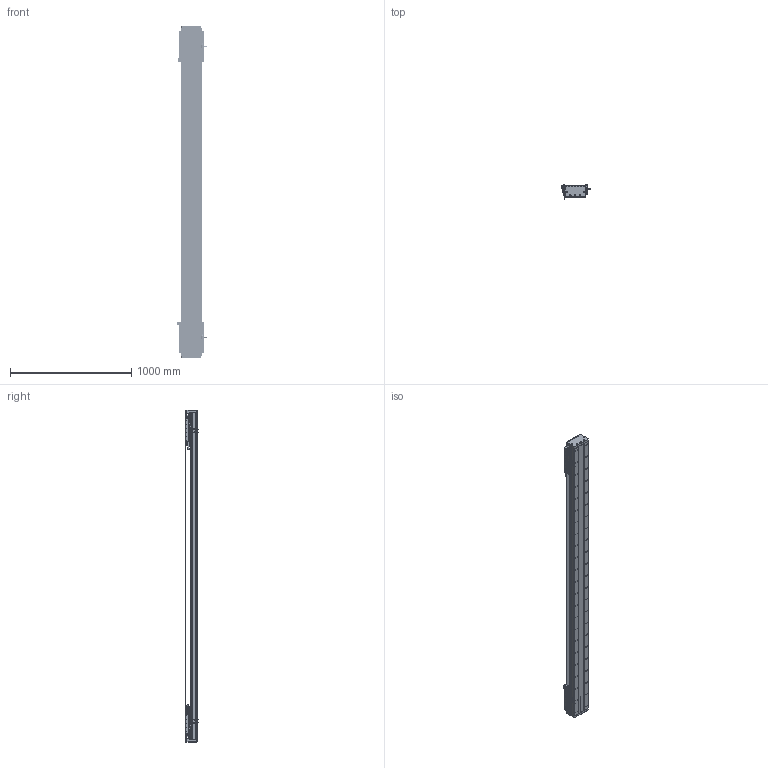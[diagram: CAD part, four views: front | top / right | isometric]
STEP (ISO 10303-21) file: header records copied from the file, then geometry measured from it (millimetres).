
FILE_DESCRIPTION (( 'STEP AP203' ), '1' );
FILE_NAME ('DA-C165-2-C3-T2120-C010-0.2 直线电机.STEP', '2023-06-13T09:19:15', ( '微软用户' ), ( '微软中国' ), 'SwSTEP 2.0', 'SolidWorks 2019', '' );
FILE_SCHEMA (( 'CONFIG_CONTROL_DESIGN' ));
Length unit declared in the file: millimetre
Products named in the file (22): IU-CU165-L 菁釱絳寢; 复件 DA95-HXJ-00 缓冲橡胶^DA-C165-C3-T-C010-0.2-N 直线电机; 复件 DA165-GD-DG-H-00 端盖^复件 CU165钢带组件_DA-C165-C3-T-C010-0.2-N 直线电机; 葩璃 CKM03-W075-C1C2-TP-3.0^DA-C165-C3-T-C010-0.2-N 眻盄萇儂; 葩璃 PM-Y45^DA-C165-C3-T-C010-0.2-N 眻盄萇儂; 复件 CU165 底座^IU-CU165-L 底座导轨_L2700; 复件 DA126-GYP-ZJ-00 中间光电感应片^DA-C165-C3-T-C010-0.2-N 直线电机; 复件 六角薄螺母 M3^DA-C165-C3-T-C010-0.2-N 直线电机_GB_FASTENER_NUT_STNAB M3-C; 葩璃 CKM01-W075-TRL^DA-C165-C3-T-C010-0.2-N 眻盄萇儂; 葩璃 PM-T45^DA-C165-C3-T-C010-0.2-N 眻盄萇儂; 复件 66338-1000-006-00 光电感应块^DA-C165-C3-T-C010-0.2-N 直线电机; 复件 DMA-010-0.2 读数头^DA-C165-C3-T-C010-0.2-N 直线电机; 复件 DKW-HXJ-JY-00 缓冲橡胶^DA-C165-C3-T-C010-0.2-N 直线电机; 复件 DA165-GYP-00 光电感应片^DA-C165-C3-T-C010-0.2-N 直线电机; DA-C165-2-C3-T2120-C010-0.2 眻盄萇儂; 复件 DA165-GDYK-00 钢带压块^复件 CU165钢带组件_DA-C165-C3-T-C010-0.2-N 直线电机; 复件 DA165-GD-1860-002-00 钢带盖板^复件 CU165钢带组件_DA-C165-C3-T-C010-0.2-N 直线电机; 复件 DA165-GDLK-00 钢带拉块^复件 CU165钢带组件_DA-C165-C3-T-C010-0.2-N 直线电机; 复件 CU165钢带组件^DA-C165-C3-T-C010-0.2-N 直线电机; 复件 XD-U-02L 磁栅尺^DA-C165-C3-T-C010-0.2-N 直线电机_T; 珨极趙賑雄怢啣C3-wf; 葩璃 DA95-GT-T-00^IU-CU165-L 菁釱絳寢_T
Assembly tree (45 placements, depth 3):
  DA-C165-2-C3-T2120-C010-0.2 眻盄萇儂
    IU-CU165-L 菁釱絳寢
      复件 CU165 底座^IU-CU165-L 底座导轨_L2700
      葩璃 DA95-GT-T-00^IU-CU165-L 菁釱絳寢_T  x4
    复件 XD-U-02L 磁栅尺^DA-C165-C3-T-C010-0.2-N 直线电机_T
    葩璃 PM-T45^DA-C165-C3-T-C010-0.2-N 眻盄萇儂  x4
    葩璃 CKM01-W075-TRL^DA-C165-C3-T-C010-0.2-N 眻盄萇儂
    复件 CU165钢带组件^DA-C165-C3-T-C010-0.2-N 直线电机
      复件 DA165-GD-DG-H-00 端盖^复件 CU165钢带组件_DA-C165-C3-T-C010-0.2-N 直线电机  x2
      复件 DA165-GDYK-00 钢带压块^复件 CU165钢带组件_DA-C165-C3-T-C010-0.2-N 直线电机  x2
      复件 DA165-GD-1860-002-00 钢带盖板^复件 CU165钢带组件_DA-C165-C3-T-C010-0.2-N 直线电机
      复件 DA165-GDLK-00 钢带拉块^复件 CU165钢带组件_DA-C165-C3-T-C010-0.2-N 直线电机  x2
    复件 DA95-HXJ-00 缓冲橡胶^DA-C165-C3-T-C010-0.2-N 直线电机  x4
    复件 DMA-010-0.2 读数头^DA-C165-C3-T-C010-0.2-N 直线电机  x2
    复件 DA165-GYP-00 光电感应片^DA-C165-C3-T-C010-0.2-N 直线电机  x2
    复件 66338-1000-006-00 光电感应块^DA-C165-C3-T-C010-0.2-N 直线电机
    葩璃 PM-Y45^DA-C165-C3-T-C010-0.2-N 眻盄萇儂
    复件 DA126-GYP-ZJ-00 中间光电感应片^DA-C165-C3-T-C010-0.2-N 直线电机
    葩璃 CKM03-W075-C1C2-TP-3.0^DA-C165-C3-T-C010-0.2-N 眻盄萇儂  x2
    复件 DKW-HXJ-JY-00 缓冲橡胶^DA-C165-C3-T-C010-0.2-N 直线电机  x2
    复件 六角薄螺母 M3^DA-C165-C3-T-C010-0.2-N 直线电机_GB_FASTENER_NUT_STNAB M3-C  x8
    珨极趙賑雄怢啣C3-wf  x2
Bounding box: 247.2 x 111.45 x 2740 mm (x, y, z)
Volume: 17802899 mm3; surface area: 5040075.1 mm2
Topology: 121 solids, 221 shells, 6625 faces, 18148 edges, 11304 vertices
Faces by surface type: cylinder 3534, plane 2023, cone 980, torus 80, sphere 8
Entity records: 151662 total; most frequent: CARTESIAN_POINT 40755, ORIENTED_EDGE 22880, DIRECTION 22340, EDGE_CURVE 11440, AXIS2_PLACEMENT_3D 8533, VERTEX_POINT 7458, EDGE_LOOP 5312, LINE 5274
